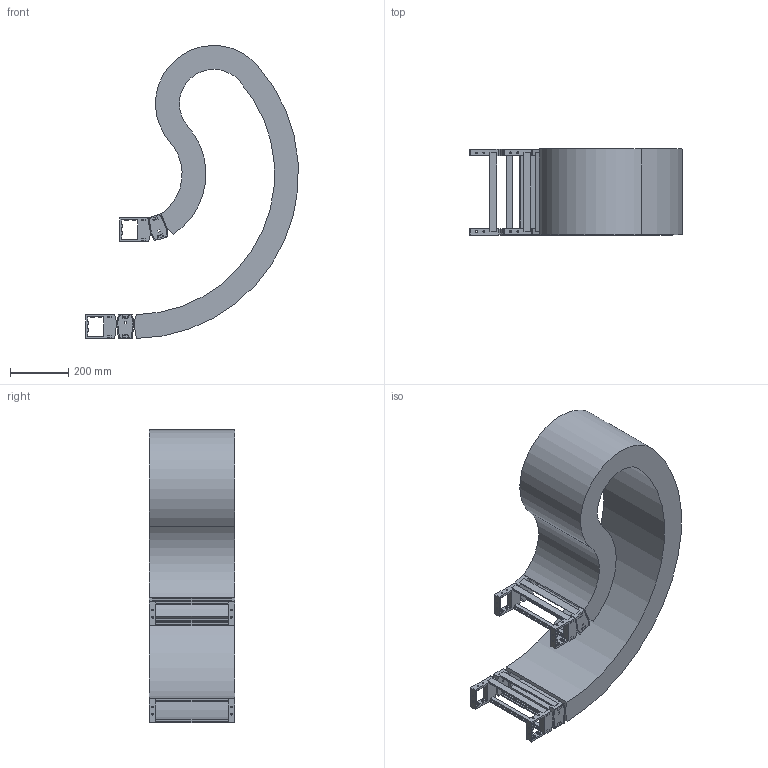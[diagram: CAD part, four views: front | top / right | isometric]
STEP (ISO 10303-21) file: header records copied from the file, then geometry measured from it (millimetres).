
FILE_DESCRIPTION( ( 'STEP AP214' ), '1' );
FILE_NAME( 'p:/temp/worker_35/temp/exporttempdir_3812_1954_HvqPd/format_2/RV060CRA295299.5165120400485-002503025.05950.stp', '2021-07-27T05:43:04', ( 'License CC BY-ND 4.0' ), ( 'CADENAS' ), ' ', 'PARTsolutions', ' ' );
FILE_SCHEMA( ( 'AUTOMOTIVE_DESIGN { 1 0 10303 214 1 1 1 1 }' ) );
Length unit declared in the file: millimetre
Products named in the file (4): RV060CRA295299.5165120400485-002503025.05950; _RV060CRA295303165120400485-002501845.047-Chain; _RV060CR-SU-250-60; _RV060CR_FB-295
Assembly tree (5 placements, depth 2):
  RV060CRA295299.5165120400485-002503025.05950
    _RV060CRA295303165120400485-002501845.047-Chain
    _RV060CR-SU-250-60  x2
    _RV060CR_FB-295  x2
Bounding box: 729.03 x 295 x 1006.74 mm (x, y, z)
Volume: 19002357.2 mm3; surface area: 3128227.9 mm2
Topology: 5 solids, 5 shells, 508 faces, 1476 edges, 988 vertices
Faces by surface type: plane 400, cylinder 108
Full cylindrical faces by diameter (mm): 6 x24
Entity records: 10820 total; most frequent: CARTESIAN_POINT 1528, ORIENTED_EDGE 1500, DIRECTION 1410, EDGE_CURVE 750, LINE 630, VECTOR 630, VERTEX_POINT 508, AXIS2_PLACEMENT_3D 390
